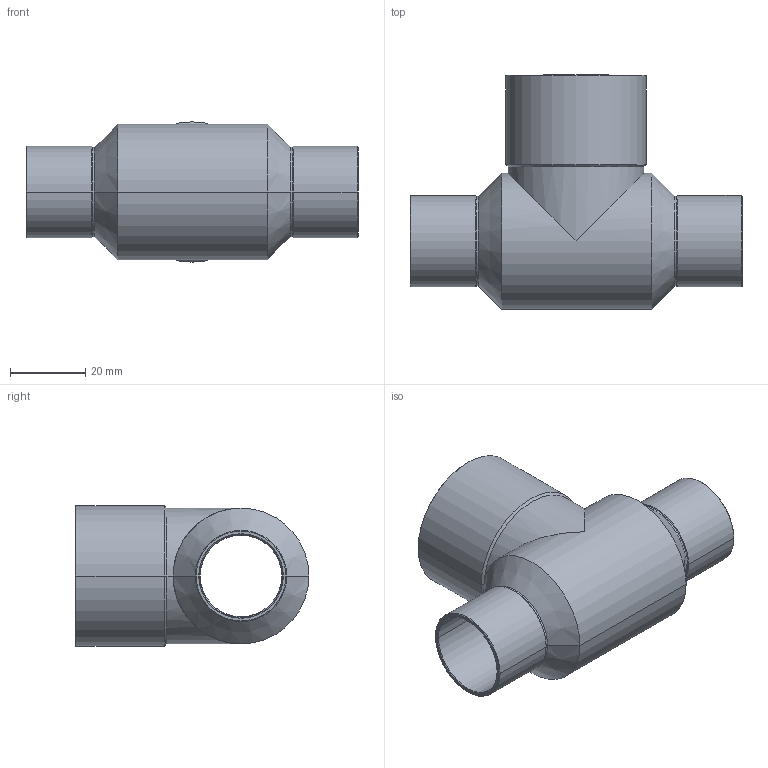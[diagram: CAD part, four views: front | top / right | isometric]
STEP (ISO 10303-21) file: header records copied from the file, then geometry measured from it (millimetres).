
FILE_DESCRIPTION((''),'2;1');
FILE_NAME('P:\Bouwmaten\z-maattekeningen 3D\5000\5130\5130223522.stp','2005-10-26T11:53:56',('Kris'),(''),'Autodesk Inventor 8','Autodesk Inventor 8','');
FILE_SCHEMA(('AUTOMOTIVE_DESIGN { 1 0 10303 214 1 1 1 1 }'));
Length unit declared in the file: millimetre
Products named in the file (1): 5130223522
Bounding box: 88 x 62 x 37.2 mm (x, y, z)
Volume: 12078.3 mm3; surface area: 22291.8 mm2
Topology: 1 solids, 1 shells, 63 faces, 134 edges, 72 vertices
Faces by surface type: cone 32, cylinder 28, plane 3
Entity records: 1695 total; most frequent: DIRECTION 334, CARTESIAN_POINT 270, ORIENTED_EDGE 268, AXIS2_PLACEMENT_3D 136, EDGE_CURVE 134, VERTEX_POINT 72, EDGE_LOOP 66, CIRCLE 64
